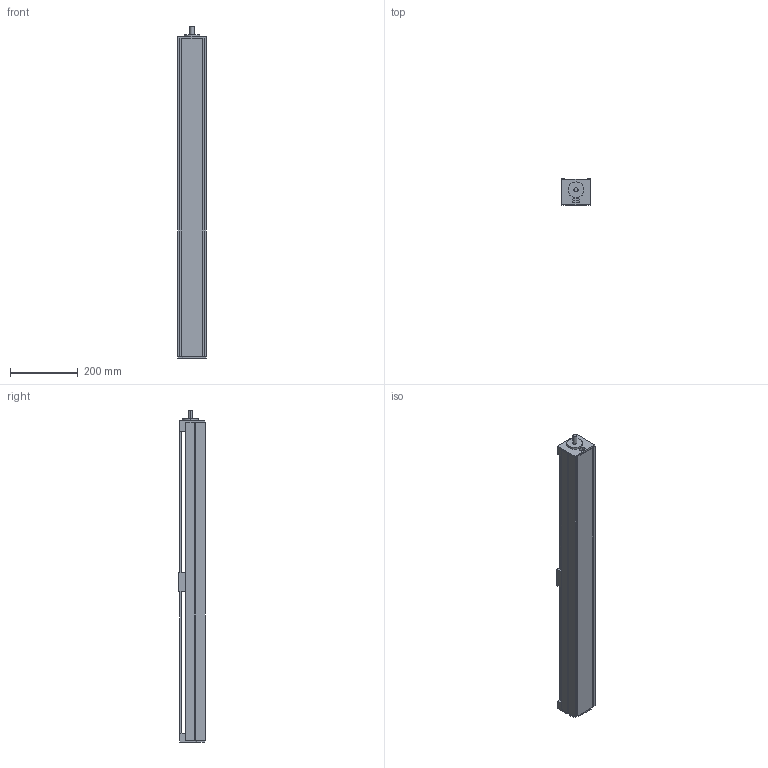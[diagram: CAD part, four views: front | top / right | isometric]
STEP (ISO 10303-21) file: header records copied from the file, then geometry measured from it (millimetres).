
FILE_DESCRIPTION (( 'STEP AP203' ), '1' );
FILE_NAME ('MSX84B-800-LL2020-P7短面板式 .STEP', '2013-11-02T03:12:08', ( '微软用户' ), ( '微软中国' ), 'SwSTEP 2.0', 'SolidWorks 2010', '' );
FILE_SCHEMA (( 'CONFIG_CONTROL_DESIGN' ));
Length unit declared in the file: millimetre
Products named in the file (1): MSX84B-800-LL2020-P7傻醱啣宒 
Bounding box: 84 x 78 x 980 mm (x, y, z)
Volume: 2455464.6 mm3; surface area: 670179.8 mm2
Topology: 1 solids, 1 shells, 158 faces, 449 edges, 286 vertices
Faces by surface type: plane 126, cylinder 24, cone 8
Entity records: 5074 total; most frequent: CARTESIAN_POINT 886, ORIENTED_EDGE 882, DIRECTION 807, EDGE_CURVE 441, LINE 393, VECTOR 393, VERTEX_POINT 286, AXIS2_PLACEMENT_3D 207
